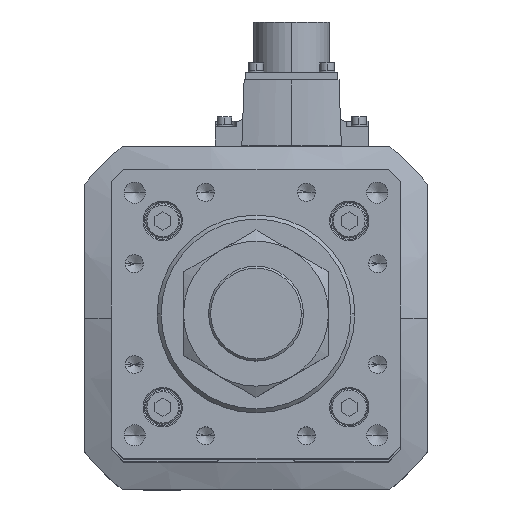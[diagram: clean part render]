
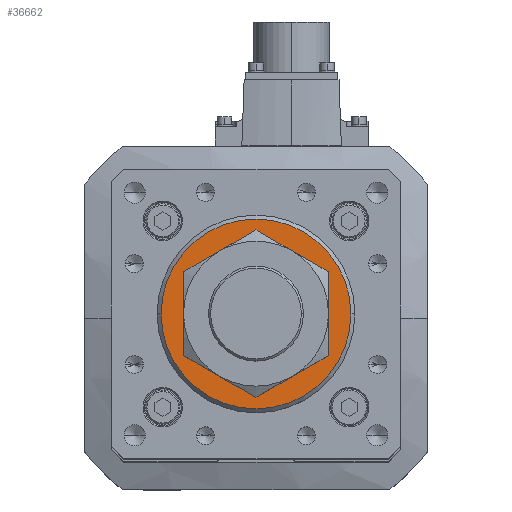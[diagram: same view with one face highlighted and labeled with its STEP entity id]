
A CAD part, top view. The second image highlights one B-rep face of the part: STEP entity #36662.
In plain terms, the highlighted planar face has unit normal (0, 0, 1).
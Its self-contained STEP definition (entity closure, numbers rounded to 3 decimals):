
#2164 = CARTESIAN_POINT ( 'NONE',  ( -23., 0., 646. ) ) ;
#4859 = CARTESIAN_POINT ( 'NONE',  ( 0., 0., 646. ) ) ;
#5719 = EDGE_LOOP ( 'NONE', ( #13484, #6566 ) ) ;
#5920 = CARTESIAN_POINT ( 'NONE',  ( 0., 0., 646. ) ) ;
#5957 = ORIENTED_EDGE ( 'NONE', *, *, #17585, .T. ) ;
#6196 = EDGE_CURVE ( 'NONE', #33021, #23127, #32165, .T. ) ;
#6566 = ORIENTED_EDGE ( 'NONE', *, *, #36915, .T. ) ;
#7051 = AXIS2_PLACEMENT_3D ( 'NONE', #27587, #36119, #27711 ) ;
#9732 = CIRCLE ( 'NONE', #13845, 36. ) ;
#11952 = FACE_BOUND ( 'NONE', #22966, .T. ) ;
#13281 = CARTESIAN_POINT ( 'NONE',  ( 23., 0., 646. ) ) ;
#13484 = ORIENTED_EDGE ( 'NONE', *, *, #28125, .T. ) ;
#13845 = AXIS2_PLACEMENT_3D ( 'NONE', #4859, #25296, #31014 ) ;
#14383 = CARTESIAN_POINT ( 'NONE',  ( 0., 0., 646. ) ) ;
#16029 = FACE_OUTER_BOUND ( 'NONE', #5719, .T. ) ;
#16494 = ORIENTED_EDGE ( 'NONE', *, *, #6196, .T. ) ;
#17585 = EDGE_CURVE ( 'NONE', #23127, #33021, #24969, .T. ) ;
#20381 = VERTEX_POINT ( 'NONE', #30131 ) ;
#20881 = DIRECTION ( 'NONE',  ( 1., 0., 0. ) ) ;
#21673 = AXIS2_PLACEMENT_3D ( 'NONE', #5920, #35250, #26356 ) ;
#22315 = DIRECTION ( 'NONE',  ( 1., 0., 0. ) ) ;
#22966 = EDGE_LOOP ( 'NONE', ( #16494, #5957 ) ) ;
#23127 = VERTEX_POINT ( 'NONE', #2164 ) ;
#23829 = DIRECTION ( 'NONE',  ( 0., 0., -1. ) ) ;
#24969 = CIRCLE ( 'NONE', #25547, 23. ) ;
#24995 = PLANE ( 'NONE',  #30720 ) ;
#25296 = DIRECTION ( 'NONE',  ( 0., 0., 1. ) ) ;
#25547 = AXIS2_PLACEMENT_3D ( 'NONE', #14383, #23829, #20881 ) ;
#26356 = DIRECTION ( 'NONE',  ( 1., 0., 0. ) ) ;
#27587 = CARTESIAN_POINT ( 'NONE',  ( 0., 0., 646. ) ) ;
#27711 = DIRECTION ( 'NONE',  ( 1., 0., 0. ) ) ;
#28125 = EDGE_CURVE ( 'NONE', #28430, #20381, #9732, .T. ) ;
#28430 = VERTEX_POINT ( 'NONE', #29465 ) ;
#29465 = CARTESIAN_POINT ( 'NONE',  ( -36., 0., 646. ) ) ;
#30131 = CARTESIAN_POINT ( 'NONE',  ( 36., 0., 646. ) ) ;
#30720 = AXIS2_PLACEMENT_3D ( 'NONE', #33872, #31337, #22315 ) ;
#31014 = DIRECTION ( 'NONE',  ( 1., 0., 0. ) ) ;
#31337 = DIRECTION ( 'NONE',  ( 0., 0., 1. ) ) ;
#32165 = CIRCLE ( 'NONE', #7051, 23. ) ;
#33021 = VERTEX_POINT ( 'NONE', #13281 ) ;
#33872 = CARTESIAN_POINT ( 'NONE',  ( 0., 0., 646. ) ) ;
#34244 = CIRCLE ( 'NONE', #21673, 36. ) ;
#35250 = DIRECTION ( 'NONE',  ( 0., 0., 1. ) ) ;
#36119 = DIRECTION ( 'NONE',  ( 0., 0., -1. ) ) ;
#36662 = ADVANCED_FACE ( 'NONE', ( #11952, #16029 ), #24995, .T. ) ;
#36915 = EDGE_CURVE ( 'NONE', #20381, #28430, #34244, .T. ) ;
